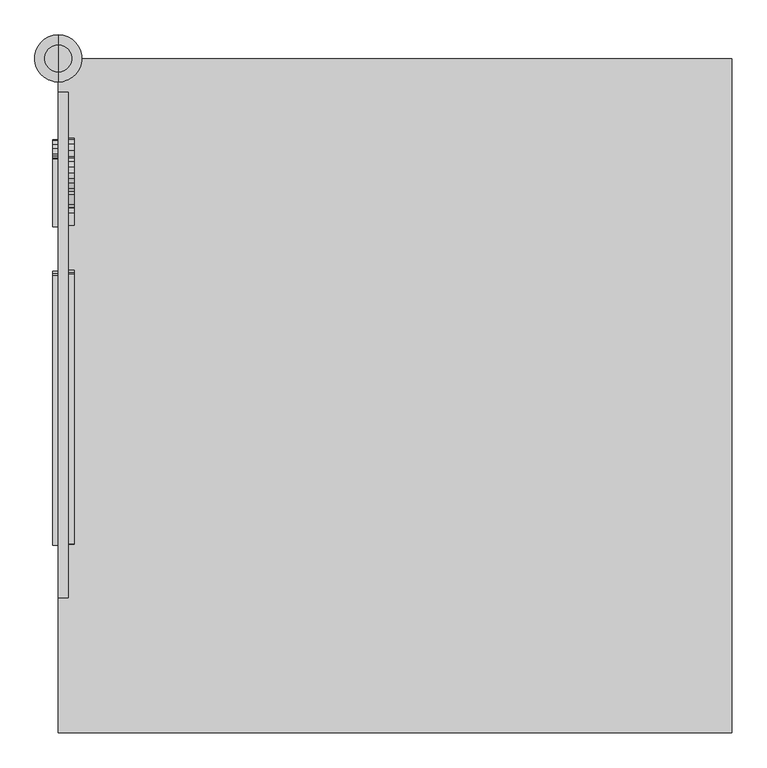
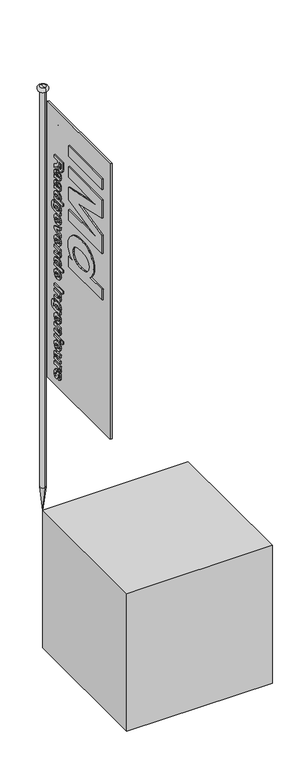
"""IFC4 building model written with IfcOpenShell, lengths in millimetres: geographic element geometry, 90_Site_Nulpunt kubus IMd (terrein) : 90_Kubus 1x1x1m."""

from ifc_helpers import new_model, si_unit, point, frame, origin, place, context, project, spatial, polyline, circle_curve, ellipse_curve, trimmed, outline, extrude, source, transform, mapped, element, save
from ifc_brep_helpers import plane_surface, cylinder_surface, revolved_surface, advanced_brep


def geographic_element_c72ebb9d(model_context):
    return source(origin(), model_context, "Body", "SolidModel", [
        extrude(outline(polyline([(1000.0, 0.0), (1000.0, -1000.0), (0.0, -1000.0), (0.0, 0.0), (1000.0, 0.0)])), frame((0.0, 0.0, -1000.0), z_axis=(0.0, 0.0, 1.0), x_axis=(1.0, 0.0, 0.0)), (0.0, 0.0, 1.0), 1000.0),
        extrude(outline(polyline([(-149.3092384, 2674.4331623), (-149.3092384, 2655.3855432), (-190.5790797, 2655.3855432), (-190.5790797, 2651.0204639), (-189.537413, 2640.1449678), (-185.7055677, 2633.646952), (-172.1515003, 2622.2754242), (-149.3092384, 2607.7912972), (-149.3092384, 2585.5442734), (-168.7040797, 2597.7714559), (-184.849913, 2608.3865353), (-193.1832463, 2618.381575), (-196.4570558, 2607.5029788), (-202.45904, 2599.7183805), (-210.8109745, 2595.0401811), (-221.1346352, 2593.4807813), (-236.9828495, 2597.7962575), (-246.6058654, 2609.304194), (-249.3092384, 2632.3696702), (-249.3092384, 2674.4331623), (-149.3092384, 2674.4331623)]), holes=[polyline([(-208.0393971, 2655.3855432), (-231.8489209, 2655.3855432), (-231.8489209, 2638.8180829), (-231.5265003, 2623.3418925), (-227.8434646, 2615.3557813), (-220.1921749, 2612.5284004), (-213.1609249, 2614.6737377), (-209.1926709, 2620.6261186), (-208.0393971, 2639.6861385), (-208.0393971, 2655.3855432)])]), frame((-8.5, 0.0, 0.0), z_axis=(1.0, 0.0, 0.0), x_axis=(0.0, 1.0, 0.0)), (0.0, 0.0, 1.0), 8.5),
        extrude(outline(polyline([(-200.1028892, 2558.5601464), (-207.5185638, 2554.5422893), (-209.6266987, 2547.6226464), (-207.1713416, 2538.7064758), (-198.9372146, 2536.3379242), (-196.928286, 2536.3379242), (-192.1911828, 2554.0710591), (-187.7020955, 2568.5799877), (-180.2864209, 2576.4048885), (-169.2745162, 2579.1950671), (-160.7520707, 2577.6294669), (-153.8355281, 2572.9326663), (-149.2503346, 2565.5200919), (-147.7219368, 2555.8071702), (-150.2392979, 2544.224829), (-157.7665797, 2534.0313766), (-155.3608257, 2533.3617337), (-149.3092384, 2531.5760194), (-149.3092384, 2512.5284004), (-159.1058654, 2516.2858409), (-173.2923733, 2517.2903051), (-195.8122146, 2517.2903051), (-213.0865201, 2519.7208607), (-220.849417, 2528.1037972), (-223.912413, 2546.2337575), (-222.647532, 2557.9804093), (-218.8528892, 2566.4346504), (-203.2774924, 2576.0204639), (-200.1028892, 2558.5601464)]), holes=[polyline([(-182.6425717, 2536.3379242), (-179.1951511, 2536.3379242), (-170.787413, 2537.0323686), (-165.0830479, 2541.2486385), (-162.0076511, 2550.350821), (-164.6490201, 2557.382071), (-170.9114209, 2560.147448), (-176.9878098, 2556.7000274), (-180.0012027, 2547.0770115), (-182.6425717, 2536.3379242)])]), frame((-8.5, 0.0, 0.0), z_axis=(1.0, 0.0, 0.0), x_axis=(0.0, 1.0, 0.0)), (0.0, 0.0, 1.0), 8.5),
        extrude(outline(polyline([(-200.1028892, 2482.3696702), (-207.5185638, 2478.3518131), (-209.6266987, 2471.4321702), (-207.1713416, 2462.5159996), (-198.9372146, 2460.147448), (-196.928286, 2460.147448), (-192.1911828, 2477.8805829), (-187.7020955, 2492.3895115), (-180.2864209, 2500.2144123), (-169.2745162, 2503.0045909), (-160.7520707, 2501.4389907), (-153.8355281, 2496.7421901), (-149.2503346, 2489.3296157), (-147.7219368, 2479.616694), (-150.2392979, 2468.0343528), (-157.7665797, 2457.8409004), (-155.3608257, 2457.1712575), (-149.3092384, 2455.3855432), (-149.3092384, 2436.3379242), (-159.1058654, 2440.0953647), (-173.2923733, 2441.099829), (-195.8122146, 2441.099829), (-213.0865201, 2443.5303845), (-220.849417, 2451.913321), (-223.912413, 2470.0432813), (-222.647532, 2481.7899331), (-218.8528892, 2490.2441742), (-203.2774924, 2499.8299877), (-200.1028892, 2482.3696702)]), holes=[polyline([(-182.6425717, 2460.147448), (-179.1951511, 2460.147448), (-170.787413, 2460.8418925), (-165.0830479, 2465.0581623), (-162.0076511, 2474.1603448), (-164.6490201, 2481.1915948), (-170.9114209, 2483.9569718), (-176.9878098, 2480.5095512), (-180.0012027, 2470.8865353), (-182.6425717, 2460.147448)])]), frame((-8.5, 0.0, 0.0), z_axis=(1.0, 0.0, 0.0), x_axis=(0.0, 1.0, 0.0)), (0.0, 0.0, 1.0), 8.5),
        extrude(outline(polyline([(-149.3092384, 2356.9728448), (-249.3092384, 2356.9728448), (-249.3092384, 2376.0204639), (-213.9173733, 2376.0204639), (-221.4136531, 2385.5566742), (-223.912413, 2396.7049877), (-221.5004586, 2408.6221504), (-214.2645955, 2418.2823686), (-202.397036, 2424.6811782), (-186.0899924, 2426.8141147), (-169.9627602, 2424.678078), (-157.8409844, 2418.2699678), (-150.2516987, 2408.8670661), (-147.7219368, 2397.7466544), (-150.7105281, 2386.0775075), (-159.8251114, 2376.0204639), (-149.3092384, 2376.0204639), (-149.3092384, 2356.9728448)]), holes=[polyline([(-187.2060638, 2407.7664956), (-203.9967384, 2403.2030036), (-209.6266987, 2391.8934798), (-203.9347344, 2380.4723488), (-185.2963416, 2376.0204639), (-167.8484249, 2380.6087575), (-162.0076511, 2391.7694718), (-163.9545757, 2399.0921405), (-169.7953495, 2404.5918925), (-187.2060638, 2407.7664956)])]), frame((-8.5, 0.0, 0.0), z_axis=(1.0, 0.0, 0.0), x_axis=(0.0, 1.0, 0.0)), (0.0, 0.0, 1.0), 8.5),
        extrude(outline(polyline([(-144.5473336, 2339.5125274), (-142.3151908, 2339.5869321), (-133.7586431, 2337.7020115), (-126.8390003, 2332.0472496), (-122.2631074, 2321.8847992), (-120.7378098, 2306.4768131), (-122.7839408, 2290.6906028), (-128.4263019, 2280.7203647), (-138.3593376, 2274.9167932), (-157.4689606, 2272.8458607), (-222.3251114, 2272.8458607), (-222.3251114, 2291.8934798), (-212.4292781, 2291.8934798), (-221.0416293, 2301.4172893), (-223.912413, 2313.2228448), (-221.491158, 2324.7648835), (-214.2273931, 2334.2421901), (-202.3753346, 2340.5758954), (-186.1891987, 2342.6871305), (-172.7591392, 2341.0750274), (-161.7348336, 2336.2387178), (-152.4156372, 2326.5598984), (-149.3092384, 2313.9420909), (-152.4032364, 2302.1179341), (-161.6852304, 2291.8934798), (-151.0453495, 2291.8934798), (-142.1663812, 2292.7367337), (-137.2804685, 2296.3081623), (-135.0235241, 2306.8736385), (-136.8092384, 2314.9341544), (-141.3727304, 2317.2903051), (-144.5473336, 2339.5125274)]), holes=[polyline([(-186.9084447, 2323.6395115), (-204.02154, 2319.2372298), (-209.6266987, 2308.0393131), (-203.9099328, 2296.4693726), (-186.3876114, 2291.8934798), (-169.3489209, 2296.6677853), (-163.5949527, 2308.3617337), (-169.2001114, 2319.2372298), (-186.9084447, 2323.6395115)])]), frame((-8.5, 0.0, 0.0), z_axis=(1.0, 0.0, 0.0), x_axis=(0.0, 1.0, 0.0)), (0.0, 0.0, 1.0), 8.5),
        extrude(outline(polyline([(-171.5314606, 2212.5284004), (-164.2645955, 2217.0174877), (-162.0076511, 2224.3339559), (-167.0175717, 2235.0234401), (-181.0552701, 2239.5125274), (-181.0552701, 2191.8934798), (-200.022284, 2193.8962079), (-213.3717384, 2200.6980432), (-221.2772443, 2211.5797397), (-223.912413, 2225.8220512), (-221.3454487, 2238.7808805), (-213.6445558, 2249.2843528), (-201.4173733, 2256.241198), (-185.27154, 2258.5601464), (-171.4012523, 2256.8116345), (-160.147532, 2251.5660988), (-150.8283356, 2240.3123786), (-147.7219368, 2224.2595512), (-152.9922741, 2204.8399083), (-168.3568574, 2193.4807813), (-171.5314606, 2212.5284004)]), holes=[polyline([(-192.1663812, 2210.9410988), (-192.1663812, 2239.1901067), (-204.9391987, 2235.2218528), (-209.6266987, 2225.0035988), (-205.1748138, 2215.1821702), (-192.1663812, 2210.9410988)])]), frame((-8.5, 0.0, 0.0), z_axis=(1.0, 0.0, 0.0), x_axis=(0.0, 1.0, 0.0)), (0.0, 0.0, 1.0), 8.5),
        extrude(outline(polyline([(-149.3092384, 2158.0145115), (-149.3092384, 2141.2486385), (-222.3251114, 2113.3220512), (-222.3251114, 2132.3696702), (-185.0731273, 2145.8865353), (-178.8727304, 2147.8954639), (-172.6227304, 2149.8299877), (-185.0731273, 2153.7486385), (-222.3251114, 2167.2903051), (-222.3251114, 2186.3379242), (-149.3092384, 2158.0145115)])), frame((-8.5, 0.0, 0.0), z_axis=(1.0, 0.0, 0.0), x_axis=(0.0, 1.0, 0.0)), (0.0, 0.0, 1.0), 8.5),
        extrude(outline(polyline([(-171.5314606, 2060.147448), (-164.2645955, 2064.6365353), (-162.0076511, 2071.9530036), (-167.0175717, 2082.6424877), (-181.0552701, 2087.131575), (-181.0552701, 2039.5125274), (-200.022284, 2041.5152555), (-213.3717384, 2048.3170909), (-221.2772443, 2059.1987873), (-223.912413, 2073.4410988), (-221.3454487, 2086.3999282), (-213.6445558, 2096.9034004), (-201.4173733, 2103.8602456), (-185.27154, 2106.179194), (-171.4012523, 2104.4306821), (-160.147532, 2099.1851464), (-150.8283356, 2087.9314262), (-147.7219368, 2071.8785988), (-152.9922741, 2052.4589559), (-168.3568574, 2041.099829), (-171.5314606, 2060.147448)]), holes=[polyline([(-192.1663812, 2058.5601464), (-192.1663812, 2086.8091544), (-204.9391987, 2082.8409004), (-209.6266987, 2072.6226464), (-205.1748138, 2062.8012178), (-192.1663812, 2058.5601464)])]), frame((-8.5, 0.0, 0.0), z_axis=(1.0, 0.0, 0.0), x_axis=(0.0, 1.0, 0.0)), (0.0, 0.0, 1.0), 8.5),
        extrude(outline(polyline([(-149.3092384, 1960.147448), (-194.64654, 1960.147448), (-207.6301709, 1961.1519123), (-215.7278892, 1964.7357417), (-221.6058654, 1972.3250274), (-223.912413, 1983.3865353), (-220.8866193, 1995.9547397), (-211.8092384, 2006.179194), (-222.3251114, 2006.179194), (-222.3251114, 2025.2268131), (-149.3092384, 2025.2268131), (-149.3092384, 2006.179194), (-182.6177701, 2006.179194), (-199.5200519, 2004.7531028), (-206.8613217, 1999.4703647), (-209.6266987, 1990.7526067), (-207.6921749, 1984.2793925), (-202.2606273, 1980.3855432), (-186.83404, 1979.1950671), (-149.3092384, 1979.1950671), (-149.3092384, 1960.147448)])), frame((-8.5, 0.0, 0.0), z_axis=(1.0, 0.0, 0.0), x_axis=(0.0, 1.0, 0.0)), (0.0, 0.0, 1.0), 8.5),
        extrude(outline(polyline([(-149.3092384, 1876.0204639), (-249.3092384, 1876.0204639), (-249.3092384, 1895.0680829), (-213.9173733, 1895.0680829), (-221.4136531, 1904.6042932), (-223.912413, 1915.7526067), (-221.5004586, 1927.6697694), (-214.2645955, 1937.3299877), (-202.397036, 1943.7287972), (-186.0899924, 1945.8617337), (-169.9627602, 1943.725697), (-157.8409844, 1937.3175869), (-150.2516987, 1927.9146851), (-147.7219368, 1916.7942734), (-150.7105281, 1905.1251266), (-159.8251114, 1895.0680829), (-149.3092384, 1895.0680829), (-149.3092384, 1876.0204639)]), holes=[polyline([(-187.2060638, 1926.8141147), (-203.9967384, 1922.2506226), (-209.6266987, 1910.9410988), (-203.9347344, 1899.5199678), (-185.2963416, 1895.0680829), (-167.8484249, 1899.6563766), (-162.0076511, 1910.8170909), (-163.9545757, 1918.1397595), (-169.7953495, 1923.6395115), (-187.2060638, 1926.8141147)])]), frame((-8.5, 0.0, 0.0), z_axis=(1.0, 0.0, 0.0), x_axis=(0.0, 1.0, 0.0)), (0.0, 0.0, 1.0), 8.5),
        extrude(outline(polyline([(-171.5314606, 1815.7030036), (-164.2645955, 1820.1920909), (-162.0076511, 1827.5085591), (-167.0175717, 1838.1980432), (-181.0552701, 1842.6871305), (-181.0552701, 1795.0680829), (-200.022284, 1797.0708111), (-213.3717384, 1803.8726464), (-221.2772443, 1814.7543428), (-223.912413, 1828.9966544), (-221.3454487, 1841.9554837), (-213.6445558, 1852.4589559), (-201.4173733, 1859.4158012), (-185.27154, 1861.7347496), (-171.4012523, 1859.9862377), (-160.147532, 1854.740702), (-150.8283356, 1843.4869817), (-147.7219368, 1827.4341544), (-152.9922741, 1808.0145115), (-168.3568574, 1796.6553845), (-171.5314606, 1815.7030036)]), holes=[polyline([(-192.1663812, 1814.115702), (-192.1663812, 1842.3647099), (-204.9391987, 1838.3964559), (-209.6266987, 1828.178202), (-205.1748138, 1818.3567734), (-192.1663812, 1814.115702)])]), frame((-8.5, 0.0, 0.0), z_axis=(1.0, 0.0, 0.0), x_axis=(0.0, 1.0, 0.0)), (0.0, 0.0, 1.0), 8.5),
        extrude(outline(polyline([(-8.5, -249.3092384), (-8.5, -149.3092384), (0.0, -149.3092384), (0.0, -249.3092384), (-8.5, -249.3092384)])), frame((0.0, 0.0, 1723.6395115), z_axis=(0.0, 0.0, 1.0), x_axis=(1.0, 0.0, 0.0)), (0.0, 0.0, 1.0), 19.047619),
        extrude(outline(polyline([(-149.3092384, 1639.5125274), (-194.64654, 1639.5125274), (-207.6301709, 1640.5169917), (-215.7278892, 1644.100821), (-221.6058654, 1651.6901067), (-223.912413, 1662.7516147), (-220.8866193, 1675.319819), (-211.8092384, 1685.5442734), (-222.3251114, 1685.5442734), (-222.3251114, 1704.5918925), (-149.3092384, 1704.5918925), (-149.3092384, 1685.5442734), (-182.6177701, 1685.5442734), (-199.5200519, 1684.1181821), (-206.8613217, 1678.835444), (-209.6266987, 1670.1176861), (-207.6921749, 1663.6444718), (-202.2606273, 1659.7506226), (-186.83404, 1658.5601464), (-149.3092384, 1658.5601464), (-149.3092384, 1639.5125274)])), frame((-8.5, 0.0, 0.0), z_axis=(1.0, 0.0, 0.0), x_axis=(0.0, 1.0, 0.0)), (0.0, 0.0, 1.0), 8.5),
        extrude(outline(polyline([(-144.5473336, 1622.0522099), (-142.3151908, 1622.1266147), (-133.7586431, 1620.241694), (-126.8390003, 1614.5869321), (-122.2631074, 1604.4244817), (-120.7378098, 1589.0164956), (-122.7839408, 1573.2302853), (-128.4263019, 1563.2600472), (-138.3593376, 1557.4564758), (-157.4689606, 1555.3855432), (-222.3251114, 1555.3855432), (-222.3251114, 1574.4331623), (-212.4292781, 1574.4331623), (-221.0416293, 1583.9569718), (-223.912413, 1595.7625274), (-221.491158, 1607.3045661), (-214.2273931, 1616.7818726), (-202.3753346, 1623.115578), (-186.1891987, 1625.2268131), (-172.7591392, 1623.6147099), (-161.7348336, 1618.7784004), (-152.4156372, 1609.0995809), (-149.3092384, 1596.4817734), (-152.4032364, 1584.6576167), (-161.6852304, 1574.4331623), (-151.0453495, 1574.4331623), (-142.1663812, 1575.2764163), (-137.2804685, 1578.8478448), (-135.0235241, 1589.413321), (-136.8092384, 1597.4738369), (-141.3727304, 1599.8299877), (-144.5473336, 1622.0522099)]), holes=[polyline([(-186.9084447, 1606.179194), (-204.02154, 1601.7769123), (-209.6266987, 1590.5789956), (-203.9099328, 1579.0090551), (-186.3876114, 1574.4331623), (-169.3489209, 1579.2074678), (-163.5949527, 1590.9014163), (-169.2001114, 1601.7769123), (-186.9084447, 1606.179194)])]), frame((-8.5, 0.0, 0.0), z_axis=(1.0, 0.0, 0.0), x_axis=(0.0, 1.0, 0.0)), (0.0, 0.0, 1.0), 8.5),
        extrude(outline(polyline([(-171.5314606, 1495.0680829), (-164.2645955, 1499.5571702), (-162.0076511, 1506.8736385), (-167.0175717, 1517.5631226), (-181.0552701, 1522.0522099), (-181.0552701, 1474.4331623), (-200.022284, 1476.4358905), (-213.3717384, 1483.2377258), (-221.2772443, 1494.1194222), (-223.912413, 1508.3617337), (-221.3454487, 1521.3205631), (-213.6445558, 1531.8240353), (-201.4173733, 1538.7808805), (-185.27154, 1541.099829), (-171.4012523, 1539.3513171), (-160.147532, 1534.1057813), (-150.8283356, 1522.8520611), (-147.7219368, 1506.7992337), (-152.9922741, 1487.3795909), (-168.3568574, 1476.0204639), (-171.5314606, 1495.0680829)]), holes=[polyline([(-192.1663812, 1493.4807813), (-192.1663812, 1521.7297893), (-204.9391987, 1517.7615353), (-209.6266987, 1507.5432813), (-205.1748138, 1497.7218528), (-192.1663812, 1493.4807813)])]), frame((-8.5, 0.0, 0.0), z_axis=(1.0, 0.0, 0.0), x_axis=(0.0, 1.0, 0.0)), (0.0, 0.0, 1.0), 8.5),
        extrude(outline(polyline([(-149.3092384, 1395.0680829), (-194.64654, 1395.0680829), (-207.6301709, 1396.0725472), (-215.7278892, 1399.6563766), (-221.6058654, 1407.2456623), (-223.912413, 1418.3071702), (-220.8866193, 1430.8753746), (-211.8092384, 1441.099829), (-222.3251114, 1441.099829), (-222.3251114, 1460.147448), (-149.3092384, 1460.147448), (-149.3092384, 1441.099829), (-182.6177701, 1441.099829), (-199.5200519, 1439.6737377), (-206.8613217, 1434.3909996), (-209.6266987, 1425.6732417), (-207.6921749, 1419.2000274), (-202.2606273, 1415.3061782), (-186.83404, 1414.115702), (-149.3092384, 1414.115702), (-149.3092384, 1395.0680829)])), frame((-8.5, 0.0, 0.0), z_axis=(1.0, 0.0, 0.0), x_axis=(0.0, 1.0, 0.0)), (0.0, 0.0, 1.0), 8.5),
        extrude(outline(polyline([(-8.5, -249.3092384), (-8.5, -231.8489209), (0.0, -231.8489209), (0.0, -249.3092384), (-8.5, -249.3092384)])), frame((0.0, 0.0, 1356.9728448), z_axis=(0.0, 0.0, 1.0), x_axis=(1.0, 0.0, 0.0)), (0.0, 0.0, 1.0), 19.047619),
        extrude(outline(polyline([(-8.5, -222.3251114), (-8.5, -149.3092384), (0.0, -149.3092384), (0.0, -222.3251114), (-8.5, -222.3251114)])), frame((0.0, 0.0, 1356.9728448), z_axis=(0.0, 0.0, 1.0), x_axis=(1.0, 0.0, 0.0)), (0.0, 0.0, 1.0), 19.047619),
        extrude(outline(polyline([(-171.5314606, 1296.6553845), (-164.2645955, 1301.1444718), (-162.0076511, 1308.4609401), (-167.0175717, 1319.1504242), (-181.0552701, 1323.6395115), (-181.0552701, 1276.0204639), (-200.022284, 1278.0231921), (-213.3717384, 1284.8250274), (-221.2772443, 1295.7067238), (-223.912413, 1309.9490353), (-221.3454487, 1322.9078647), (-213.6445558, 1333.4113369), (-201.4173733, 1340.3681821), (-185.27154, 1342.6871305), (-171.4012523, 1340.9386186), (-160.147532, 1335.6930829), (-150.8283356, 1324.4393627), (-147.7219368, 1308.3865353), (-152.9922741, 1288.9668925), (-168.3568574, 1277.6077655), (-171.5314606, 1296.6553845)]), holes=[polyline([(-192.1663812, 1295.0680829), (-192.1663812, 1323.3170909), (-204.9391987, 1319.3488369), (-209.6266987, 1309.1305829), (-205.1748138, 1299.3091544), (-192.1663812, 1295.0680829)])]), frame((-8.5, 0.0, 0.0), z_axis=(1.0, 0.0, 0.0), x_axis=(0.0, 1.0, 0.0)), (0.0, 0.0, 1.0), 8.5),
        extrude(outline(polyline([(-149.3092384, 1215.7030036), (-149.3092384, 1196.6553845), (-222.3251114, 1196.6553845), (-222.3251114, 1215.7030036), (-191.3479289, 1215.7030036), (-171.5190598, 1217.1042932), (-164.7358257, 1222.3126266), (-162.0076511, 1230.9311782), (-164.053782, 1237.8880234), (-169.584536, 1241.6578647), (-188.5701511, 1242.6871305), (-222.3251114, 1242.6871305), (-222.3251114, 1261.7347496), (-176.1693574, 1261.7347496), (-160.0111233, 1259.2545909), (-150.9461431, 1251.2188766), (-147.7219368, 1238.694075), (-151.0081471, 1225.6608409), (-160.0235241, 1215.7030036), (-149.3092384, 1215.7030036)])), frame((-8.5, 0.0, 0.0), z_axis=(1.0, 0.0, 0.0), x_axis=(0.0, 1.0, 0.0)), (0.0, 0.0, 1.0), 8.5),
        extrude(outline(polyline([(-149.3092384, 1158.5601464), (-171.1594368, 1158.5601464), (-194.8697543, 1156.9852456), (-202.6946551, 1152.6697694), (-204.8647939, 1145.9609401), (-201.7645955, 1137.131575), (-219.8945558, 1131.5760194), (-223.912413, 1143.2575671), (-221.6430677, 1150.9460591), (-212.1564606, 1158.5601464), (-222.3251114, 1158.5601464), (-222.3251114, 1177.6077655), (-149.3092384, 1177.6077655), (-149.3092384, 1158.5601464)])), frame((-8.5, 0.0, 0.0), z_axis=(1.0, 0.0, 0.0), x_axis=(0.0, 1.0, 0.0)), (0.0, 0.0, 1.0), 8.5),
        extrude(outline(polyline([(-169.944159, 1131.5760194), (-160.7489705, 1127.4806573), (-153.6991193, 1120.4525075), (-149.2162324, 1110.4357665), (-147.7219368, 1097.3746305), (-149.5169517, 1083.271828), (-154.9019963, 1073.1062774), (-162.7858009, 1066.9585839), (-172.0770955, 1064.9093528), (-180.2430181, 1066.3230432), (-186.3876114, 1070.5641147), (-194.8945558, 1090.6906028), (-200.2268971, 1107.5432813), (-203.6743177, 1109.3537972), (-207.5433654, 1107.5432813), (-209.6266987, 1098.490702), (-207.1713416, 1090.8022099), (-200.1028892, 1087.131575), (-203.2774924, 1068.0839559), (-218.7040797, 1077.6821702), (-222.6103297, 1086.4929341), (-223.912413, 1098.9867337), (-222.3003098, 1112.0881722), (-217.4640003, 1121.2337575), (-210.2653396, 1126.6095016), (-201.5661828, 1128.4014163), (-192.2221848, 1126.3118825), (-185.1723336, 1120.0432813), (-175.8469368, 1091.4966544), (-173.3419765, 1085.2714559), (-169.7705479, 1083.9569718), (-164.7110241, 1086.4371305), (-162.0076511, 1097.3746305), (-164.835032, 1107.6548885), (-173.1187622, 1112.5284004), (-169.944159, 1131.5760194)])), frame((-8.5, 0.0, 0.0), z_axis=(1.0, 0.0, 0.0), x_axis=(0.0, 1.0, 0.0)), (0.0, 0.0, 1.0), 8.5),
        extrude(outline(polyline([(-8.5, -722.1223548), (-8.5, -322.1223548), (0.0, -322.1223548), (0.0, -722.1223548), (-8.5, -722.1223548)])), frame((0.0, 0.0, 2767.7553367), z_axis=(0.0, 0.0, 1.0), x_axis=(1.0, 0.0, 0.0)), (0.0, 0.0, 1.0), 76.1904762),
        extrude(outline(polyline([(-322.1223548, 2691.5648605), (-322.1223548, 2615.3743843), (-637.0033072, 2612.1997812), (-322.1223548, 2542.4577177), (-322.1223548, 2453.2712097), (-637.0033072, 2383.6283526), (-322.1223548, 2380.4537494), (-322.1223548, 2304.2632732), (-722.1223548, 2304.2632732), (-722.1223548, 2434.8188288), (-449.3048945, 2497.9140669), (-722.1223548, 2561.009305), (-722.1223548, 2691.5648605), (-322.1223548, 2691.5648605)])), frame((-8.5, 0.0, 0.0), z_axis=(1.0, 0.0, 0.0), x_axis=(0.0, 1.0, 0.0)), (0.0, 0.0, 1.0), 8.5),
        extrude(outline(polyline([(-322.1223548, 1967.7553367), (-722.1223548, 1967.7553367), (-722.1223548, 2043.9458129), (-580.5548945, 2043.9458129), (-598.0462139, 2062.212182), (-610.5400135, 2082.0906542), (-618.0362933, 2103.5812296), (-620.5350532, 2126.6839081), (-618.1230988, 2151.6467058), (-610.8872357, 2174.3525589), (-598.8274639, 2194.8014677), (-581.9437834, 2212.993432), (-560.4284064, 2227.9239875), (-534.4735453, 2238.58867), (-504.0792, 2244.9874796), (-469.2453707, 2247.1204161), (-434.9881782, 2244.9843794), (-404.7364421, 2238.5762693), (-378.4901623, 2227.8960857), (-356.2493389, 2212.9438288), (-338.5410056, 2194.9967802), (-325.8921961, 2175.3322216), (-318.3029103, 2153.9501532), (-315.7731484, 2130.8505748), (-318.7617397, 2107.4254756), (-327.7275135, 2084.1739875), (-342.8192794, 2062.5346026), (-364.1858469, 2043.9458129), (-322.1223548, 2043.9458129), (-322.1223548, 1967.7553367)]), holes=[polyline([(-473.7096564, 2170.9299399), (-512.8217595, 2166.3664478), (-528.2297457, 2160.6620827), (-540.8723548, 2152.6759716), (-557.7622357, 2132.2394637), (-563.3921961, 2107.4378764), (-557.7002318, 2082.0782534), (-540.6243389, 2061.7533526), (-527.4267943, 2053.962554), (-510.6020175, 2048.3976978), (-466.0707675, 2043.9458129), (-425.4085651, 2048.5341066), (-409.4022407, 2054.2694736), (-396.2791008, 2062.2989875), (-378.7567794, 2082.6362891), (-372.9160056, 2106.9418446), (-374.8629302, 2122.4986403), (-380.703704, 2136.2325193), (-390.438327, 2148.1434816), (-404.0667992, 2158.2315272), (-432.2414024, 2167.7553367), (-473.7096564, 2170.9299399)])]), frame((-8.5, 0.0, 0.0), z_axis=(1.0, 0.0, 0.0), x_axis=(0.0, 1.0, 0.0)), (0.0, 0.0, 1.0), 8.5),
        extrude(outline(polyline([(-147.0915312, 1281.7463407), (-247.0915312, 1281.7463407), (-247.0915312, 1323.8098327), (-244.3881581, 1346.8753089), (-234.7651423, 1358.3832454), (-218.916928, 1362.6987216), (-208.5932673, 1361.1393218), (-200.2413327, 1356.4611224), (-194.2393486, 1348.6765242), (-190.9655391, 1337.797928), (-182.6322058, 1347.7929676), (-166.4863724, 1358.408047), (-147.0915312, 1370.6352296), (-147.0915312, 1348.3882057), (-169.9337931, 1333.9040788), (-183.4878605, 1322.532551), (-187.3197058, 1316.0345351), (-188.3613724, 1305.1590391), (-188.3613724, 1300.7939597), (-147.0915312, 1300.7939597), (-147.0915312, 1281.7463407)]), holes=[polyline([(-205.8216899, 1300.7939597), (-205.8216899, 1316.4933645), (-206.9749637, 1335.5533843), (-210.9432177, 1341.5057653), (-217.9744677, 1343.6511026), (-225.6257574, 1340.8237216), (-229.3087931, 1332.8376105), (-229.6312137, 1317.36142), (-229.6312137, 1300.7939597), (-205.8216899, 1300.7939597)])]), frame((15.0, 0.0, 0.0), z_axis=(1.0, 0.0, 0.0), x_axis=(0.0, 1.0, 0.0)), (0.0, 0.0, 1.0), 8.5),
        extrude(outline(polyline([(-197.885182, 1397.6193565), (-201.0597851, 1380.1590391), (-216.635182, 1389.7448526), (-220.4298248, 1398.1990936), (-221.6947058, 1409.9457454), (-218.6317097, 1428.0757057), (-210.8688129, 1436.4586423), (-193.5945074, 1438.8891978), (-171.0746661, 1438.8891978), (-156.8881581, 1439.8936621), (-147.0915312, 1443.6511026), (-147.0915312, 1424.6034835), (-153.1431185, 1422.8177692), (-155.5488724, 1422.1481264), (-148.0215907, 1411.954674), (-145.5042296, 1400.3723327), (-147.0326274, 1390.6594111), (-151.6178208, 1383.2468367), (-158.5343635, 1378.5500361), (-167.0568089, 1376.9844359), (-178.0687137, 1379.7746145), (-185.4843883, 1387.5995153), (-189.9734756, 1402.1084438), (-194.7105788, 1419.8415788), (-196.7195074, 1419.8415788), (-204.9536343, 1417.4730272), (-207.4089915, 1408.5568565), (-205.3008566, 1401.6372137), (-197.885182, 1397.6193565)]), holes=[polyline([(-180.4248645, 1419.8415788), (-177.7834954, 1409.1024915), (-174.7701026, 1399.4794756), (-168.6937137, 1396.0320549), (-162.4313129, 1398.7974319), (-159.7899439, 1405.8286819), (-162.8653407, 1414.9308645), (-168.5697058, 1419.1471343), (-176.9774439, 1419.8415788), (-180.4248645, 1419.8415788)])]), frame((15.0, 0.0, 0.0), z_axis=(1.0, 0.0, 0.0), x_axis=(0.0, 1.0, 0.0)), (0.0, 0.0, 1.0), 8.5),
        extrude(outline(polyline([(-197.885182, 1473.8098327), (-201.0597851, 1456.3495153), (-216.635182, 1465.9353288), (-220.4298248, 1474.3895698), (-221.6947058, 1486.1362216), (-218.6317097, 1504.2661819), (-210.8688129, 1512.6491184), (-193.5945074, 1515.079674), (-171.0746661, 1515.079674), (-156.8881581, 1516.0841383), (-147.0915312, 1519.8415788), (-147.0915312, 1500.7939597), (-153.1431185, 1499.0082454), (-155.5488724, 1498.3386026), (-148.0215907, 1488.1451502), (-145.5042296, 1476.5628089), (-147.0326274, 1466.8498873), (-151.6178208, 1459.4373129), (-158.5343635, 1454.7405123), (-167.0568089, 1453.1749121), (-178.0687137, 1455.9650907), (-185.4843883, 1463.7899915), (-189.9734756, 1478.29892), (-194.7105788, 1496.0320549), (-196.7195074, 1496.0320549), (-204.9536343, 1493.6635034), (-207.4089915, 1484.7473327), (-205.3008566, 1477.8276899), (-197.885182, 1473.8098327)]), holes=[polyline([(-180.4248645, 1496.0320549), (-177.7834954, 1485.2929676), (-174.7701026, 1475.6699518), (-168.6937137, 1472.2225311), (-162.4313129, 1474.9879081), (-159.7899439, 1482.0191581), (-162.8653407, 1491.1213407), (-168.5697058, 1495.3376105), (-176.9774439, 1496.0320549), (-180.4248645, 1496.0320549)])]), frame((15.0, 0.0, 0.0), z_axis=(1.0, 0.0, 0.0), x_axis=(0.0, 1.0, 0.0)), (0.0, 0.0, 1.0), 8.5),
        extrude(outline(polyline([(-147.0915312, 1599.2066581), (-147.0915312, 1580.1590391), (-157.6074042, 1580.1590391), (-148.4928208, 1570.1019954), (-145.5042296, 1558.4328486), (-148.0339915, 1547.3124369), (-155.6232772, 1537.9095351), (-167.745053, 1531.501425), (-183.8722851, 1529.3653883), (-200.1793288, 1531.4983248), (-212.0468883, 1537.8971343), (-219.2827514, 1547.5573526), (-221.6947058, 1559.4745153), (-219.1959458, 1570.6228288), (-211.6996661, 1580.1590391), (-247.0915312, 1580.1590391), (-247.0915312, 1599.2066581), (-147.0915312, 1599.2066581)]), holes=[polyline([(-184.9883566, 1548.4130073), (-167.5776423, 1551.5876105), (-161.7368685, 1557.0873625), (-159.7899439, 1564.4100311), (-165.6307177, 1575.5707454), (-183.0786343, 1580.1590391), (-201.7170272, 1575.7071542), (-207.4089915, 1564.2860232), (-201.7790312, 1552.9764994), (-184.9883566, 1548.4130073)])]), frame((15.0, 0.0, 0.0), z_axis=(1.0, 0.0, 0.0), x_axis=(0.0, 1.0, 0.0)), (0.0, 0.0, 1.0), 8.5),
        extrude(outline(polyline([(-142.3296264, 1616.6669756), (-139.1550232, 1638.8891978), (-134.5915312, 1641.2453486), (-132.8058169, 1649.3058645), (-135.0627613, 1659.8713407), (-139.948674, 1663.4427692), (-148.8276423, 1664.2860232), (-159.4675232, 1664.2860232), (-150.1855292, 1654.0615688), (-147.0915312, 1642.2374121), (-150.19793, 1629.6196046), (-159.5171264, 1619.9407851), (-170.541432, 1615.1044756), (-183.9714915, 1613.4923724), (-200.1576274, 1615.6036075), (-212.0096859, 1621.9373129), (-219.2734508, 1631.4146194), (-221.6947058, 1642.9566581), (-218.823922, 1654.7622137), (-210.2115708, 1664.2860232), (-220.1074042, 1664.2860232), (-220.1074042, 1683.3336423), (-155.2512534, 1683.3336423), (-136.1416304, 1681.2627097), (-126.2085947, 1675.4591383), (-120.5662335, 1665.4889002), (-118.5201026, 1649.7026899), (-120.0454002, 1634.2947038), (-124.6212931, 1624.1322534), (-131.5409359, 1618.4774915), (-140.0974835, 1616.5925708), (-142.3296264, 1616.6669756)]), holes=[polyline([(-184.6907375, 1632.5399915), (-166.9824042, 1636.9422732), (-161.3772454, 1647.8177692), (-167.1312137, 1659.5117176), (-184.1699042, 1664.2860232), (-201.6922256, 1659.7101303), (-207.4089915, 1648.1401899), (-201.8038327, 1636.9422732), (-184.6907375, 1632.5399915)])]), frame((15.0, 0.0, 0.0), z_axis=(1.0, 0.0, 0.0), x_axis=(0.0, 1.0, 0.0)), (0.0, 0.0, 1.0), 8.5),
        extrude(outline(polyline([(-169.3137534, 1743.6511026), (-166.1391502, 1762.6987216), (-150.7745669, 1751.3395946), (-145.5042296, 1731.9199518), (-148.6106284, 1715.8671244), (-157.9298248, 1704.6134042), (-169.1835451, 1699.3678684), (-183.0538327, 1697.6193565), (-199.1996661, 1699.9383049), (-211.4268486, 1706.8951502), (-219.1277415, 1717.3986224), (-221.6947058, 1730.3574518), (-219.0595371, 1744.5997633), (-211.1540312, 1755.4814597), (-197.8045768, 1762.283295), (-178.8375629, 1764.2860232), (-178.8375629, 1716.6669756), (-164.7998645, 1721.1560629), (-159.7899439, 1731.845547), (-162.0468883, 1739.1620153), (-169.3137534, 1743.6511026)]), holes=[polyline([(-189.948674, 1745.2384042), (-202.9571066, 1740.9973327), (-207.4089915, 1731.1759042), (-202.7214915, 1720.9576502), (-189.948674, 1716.9893962), (-189.948674, 1745.2384042)])]), frame((15.0, 0.0, 0.0), z_axis=(1.0, 0.0, 0.0), x_axis=(0.0, 1.0, 0.0)), (0.0, 0.0, 1.0), 8.5),
        extrude(outline(polyline([(-147.0915312, 1798.1649915), (-220.1074042, 1769.8415788), (-220.1074042, 1788.8891978), (-182.8554201, 1802.4308645), (-170.4050232, 1806.3495153), (-176.6550232, 1808.2840391), (-182.8554201, 1810.2929676), (-220.1074042, 1823.8098327), (-220.1074042, 1842.8574518), (-147.0915312, 1814.9308645), (-147.0915312, 1798.1649915)])), frame((15.0, 0.0, 0.0), z_axis=(1.0, 0.0, 0.0), x_axis=(0.0, 1.0, 0.0)), (0.0, 0.0, 1.0), 8.5),
        extrude(outline(polyline([(-169.3137534, 1896.0320549), (-166.1391502, 1915.079674), (-150.7745669, 1903.720547), (-145.5042296, 1884.3009042), (-148.6106284, 1868.2480768), (-157.9298248, 1856.9943565), (-169.1835451, 1851.7488208), (-183.0538327, 1850.0003089), (-199.1996661, 1852.3192573), (-211.4268486, 1859.2761026), (-219.1277415, 1869.7795748), (-221.6947058, 1882.7384042), (-219.0595371, 1896.9807157), (-211.1540312, 1907.8624121), (-197.8045768, 1914.6642474), (-178.8375629, 1916.6669756), (-178.8375629, 1869.047928), (-164.7998645, 1873.5370153), (-159.7899439, 1884.2264994), (-162.0468883, 1891.5429676), (-169.3137534, 1896.0320549)]), holes=[polyline([(-189.948674, 1897.6193565), (-202.9571066, 1893.3782851), (-207.4089915, 1883.5568565), (-202.7214915, 1873.3386026), (-189.948674, 1869.3703486), (-189.948674, 1897.6193565)])]), frame((15.0, 0.0, 0.0), z_axis=(1.0, 0.0, 0.0), x_axis=(0.0, 1.0, 0.0)), (0.0, 0.0, 1.0), 8.5),
        extrude(outline(polyline([(-147.0915312, 1996.0320549), (-147.0915312, 1976.9844359), (-184.6163327, 1976.9844359), (-200.0429201, 1975.7939597), (-205.4744677, 1971.9001105), (-207.4089915, 1965.4268962), (-204.6436145, 1956.7091383), (-197.3023447, 1951.4264002), (-180.4000629, 1950.0003089), (-147.0915312, 1950.0003089), (-147.0915312, 1930.9526899), (-220.1074042, 1930.9526899), (-220.1074042, 1950.0003089), (-209.5915312, 1950.0003089), (-218.6689121, 1960.2247633), (-221.6947058, 1972.7929676), (-219.3881581, 1983.8544756), (-213.510182, 1991.4437613), (-205.4124637, 1995.0275907), (-192.4288327, 1996.0320549), (-147.0915312, 1996.0320549)])), frame((15.0, 0.0, 0.0), z_axis=(1.0, 0.0, 0.0), x_axis=(0.0, 1.0, 0.0)), (0.0, 0.0, 1.0), 8.5),
        extrude(outline(polyline([(-147.0915312, 2080.1590391), (-147.0915312, 2061.11142), (-157.6074042, 2061.11142), (-148.4928208, 2051.0543764), (-145.5042296, 2039.3852296), (-148.0339915, 2028.2648178), (-155.6232772, 2018.8619161), (-167.745053, 2012.4538059), (-183.8722851, 2010.3177692), (-200.1793288, 2012.4507057), (-212.0468883, 2018.8495153), (-219.2827514, 2028.5097335), (-221.6947058, 2040.4268962), (-219.1959458, 2051.5752097), (-211.6996661, 2061.11142), (-247.0915312, 2061.11142), (-247.0915312, 2080.1590391), (-147.0915312, 2080.1590391)]), holes=[polyline([(-184.9883566, 2029.3653883), (-167.5776423, 2032.5399915), (-161.7368685, 2038.0397434), (-159.7899439, 2045.3624121), (-165.6307177, 2056.5231264), (-183.0786343, 2061.11142), (-201.7170272, 2056.6595351), (-207.4089915, 2045.2384042), (-201.7790312, 2033.9288803), (-184.9883566, 2029.3653883)])]), frame((15.0, 0.0, 0.0), z_axis=(1.0, 0.0, 0.0), x_axis=(0.0, 1.0, 0.0)), (0.0, 0.0, 1.0), 8.5),
        extrude(outline(polyline([(-169.3137534, 2140.4764994), (-166.1391502, 2159.5241184), (-150.7745669, 2148.1649915), (-145.5042296, 2128.7453486), (-148.6106284, 2112.6925212), (-157.9298248, 2101.438801), (-169.1835451, 2096.1932653), (-183.0538327, 2094.4447534), (-199.1996661, 2096.7637018), (-211.4268486, 2103.720547), (-219.1277415, 2114.2240192), (-221.6947058, 2127.1828486), (-219.0595371, 2141.4251601), (-211.1540312, 2152.3068565), (-197.8045768, 2159.1086919), (-178.8375629, 2161.11142), (-178.8375629, 2113.4923724), (-164.7998645, 2117.9814597), (-159.7899439, 2128.6709438), (-162.0468883, 2135.9874121), (-169.3137534, 2140.4764994)]), holes=[polyline([(-189.948674, 2142.063801), (-202.9571066, 2137.8227296), (-207.4089915, 2128.001301), (-202.7214915, 2117.783047), (-189.948674, 2113.814793), (-189.948674, 2142.063801)])]), frame((15.0, 0.0, 0.0), z_axis=(1.0, 0.0, 0.0), x_axis=(0.0, 1.0, 0.0)), (0.0, 0.0, 1.0), 8.5),
        extrude(outline(polyline([(23.5, -147.0915312), (23.5, -247.0915312), (15.0, -247.0915312), (15.0, -147.0915312), (23.5, -147.0915312)])), frame((0.0, 0.0, 2213.4923724), z_axis=(0.0, 0.0, 1.0), x_axis=(1.0, 0.0, 0.0)), (0.0, 0.0, 1.0), 19.047619),
        extrude(outline(polyline([(-147.0915312, 2316.6669756), (-147.0915312, 2297.6193565), (-184.6163327, 2297.6193565), (-200.0429201, 2296.4288803), (-205.4744677, 2292.5350311), (-207.4089915, 2286.0618169), (-204.6436145, 2277.3440589), (-197.3023447, 2272.0613208), (-180.4000629, 2270.6352296), (-147.0915312, 2270.6352296), (-147.0915312, 2251.5876105), (-220.1074042, 2251.5876105), (-220.1074042, 2270.6352296), (-209.5915312, 2270.6352296), (-218.6689121, 2280.8596839), (-221.6947058, 2293.4278883), (-219.3881581, 2304.4893962), (-213.510182, 2312.0786819), (-205.4124637, 2315.6625113), (-192.4288327, 2316.6669756), (-147.0915312, 2316.6669756)])), frame((15.0, 0.0, 0.0), z_axis=(1.0, 0.0, 0.0), x_axis=(0.0, 1.0, 0.0)), (0.0, 0.0, 1.0), 8.5),
        extrude(outline(polyline([(-142.3296264, 2334.127293), (-139.1550232, 2356.3495153), (-134.5915312, 2358.7056661), (-132.8058169, 2366.7661819), (-135.0627613, 2377.3316581), (-139.948674, 2380.9030867), (-148.8276423, 2381.7463407), (-159.4675232, 2381.7463407), (-150.1855292, 2371.5218863), (-147.0915312, 2359.6977296), (-150.19793, 2347.079922), (-159.5171264, 2337.4011026), (-170.541432, 2332.564793), (-183.9714915, 2330.9526899), (-200.1576274, 2333.063925), (-212.0096859, 2339.3976303), (-219.2734508, 2348.8749369), (-221.6947058, 2360.4169756), (-218.823922, 2372.2225311), (-210.2115708, 2381.7463407), (-220.1074042, 2381.7463407), (-220.1074042, 2400.7939597), (-155.2512534, 2400.7939597), (-136.1416304, 2398.7230272), (-126.2085947, 2392.9194557), (-120.5662335, 2382.9492176), (-118.5201026, 2367.1630073), (-120.0454002, 2351.7550212), (-124.6212931, 2341.5925708), (-131.5409359, 2335.9378089), (-140.0974835, 2334.0528883), (-142.3296264, 2334.127293)]), holes=[polyline([(-184.6907375, 2350.0003089), (-166.9824042, 2354.4025907), (-161.3772454, 2365.2780867), (-167.1312137, 2376.9720351), (-184.1699042, 2381.7463407), (-201.6922256, 2377.1704478), (-207.4089915, 2365.6005073), (-201.8038327, 2354.4025907), (-184.6907375, 2350.0003089)])]), frame((15.0, 0.0, 0.0), z_axis=(1.0, 0.0, 0.0), x_axis=(0.0, 1.0, 0.0)), (0.0, 0.0, 1.0), 8.5),
        extrude(outline(polyline([(-169.3137534, 2461.11142), (-166.1391502, 2480.1590391), (-150.7745669, 2468.7999121), (-145.5042296, 2449.3802692), (-148.6106284, 2433.3274419), (-157.9298248, 2422.0737216), (-169.1835451, 2416.8281859), (-183.0538327, 2415.079674), (-199.1996661, 2417.3986224), (-211.4268486, 2424.3554676), (-219.1277415, 2434.8589399), (-221.6947058, 2447.8177692), (-219.0595371, 2462.0600807), (-211.1540312, 2472.9417772), (-197.8045768, 2479.7436125), (-178.8375629, 2481.7463407), (-178.8375629, 2434.127293), (-164.7998645, 2438.6163803), (-159.7899439, 2449.3058645), (-162.0468883, 2456.6223327), (-169.3137534, 2461.11142)]), holes=[polyline([(-189.948674, 2462.6987216), (-202.9571066, 2458.4576502), (-207.4089915, 2448.6362216), (-202.7214915, 2438.4179676), (-189.948674, 2434.4497137), (-189.948674, 2462.6987216)])]), frame((15.0, 0.0, 0.0), z_axis=(1.0, 0.0, 0.0), x_axis=(0.0, 1.0, 0.0)), (0.0, 0.0, 1.0), 8.5),
        extrude(outline(polyline([(-147.0915312, 2561.11142), (-147.0915312, 2542.063801), (-184.6163327, 2542.063801), (-200.0429201, 2540.8733248), (-205.4744677, 2536.9794756), (-207.4089915, 2530.5062613), (-204.6436145, 2521.7885034), (-197.3023447, 2516.5057653), (-180.4000629, 2515.079674), (-147.0915312, 2515.079674), (-147.0915312, 2496.0320549), (-220.1074042, 2496.0320549), (-220.1074042, 2515.079674), (-209.5915312, 2515.079674), (-218.6689121, 2525.3041284), (-221.6947058, 2537.8723327), (-219.3881581, 2548.9338407), (-213.510182, 2556.5231264), (-205.4124637, 2560.1069557), (-192.4288327, 2561.11142), (-147.0915312, 2561.11142)])), frame((15.0, 0.0, 0.0), z_axis=(1.0, 0.0, 0.0), x_axis=(0.0, 1.0, 0.0)), (0.0, 0.0, 1.0), 8.5),
        extrude(outline(polyline([(23.5, -229.6312137), (23.5, -247.0915312), (15.0, -247.0915312), (15.0, -229.6312137), (23.5, -229.6312137)])), frame((0.0, 0.0, 2580.1590391), z_axis=(0.0, 0.0, 1.0), x_axis=(1.0, 0.0, 0.0)), (0.0, 0.0, 1.0), 19.047619),
        extrude(outline(polyline([(23.5, -147.0915312), (23.5, -220.1074042), (15.0, -220.1074042), (15.0, -147.0915312), (23.5, -147.0915312)])), frame((0.0, 0.0, 2580.1590391), z_axis=(0.0, 0.0, 1.0), x_axis=(1.0, 0.0, 0.0)), (0.0, 0.0, 1.0), 19.047619),
        extrude(outline(polyline([(-169.3137534, 2659.5241184), (-166.1391502, 2678.5717375), (-150.7745669, 2667.2126105), (-145.5042296, 2647.7929676), (-148.6106284, 2631.7401403), (-157.9298248, 2620.48642), (-169.1835451, 2615.2408843), (-183.0538327, 2613.4923724), (-199.1996661, 2615.8113208), (-211.4268486, 2622.7681661), (-219.1277415, 2633.2716383), (-221.6947058, 2646.2304676), (-219.0595371, 2660.4727792), (-211.1540312, 2671.3544756), (-197.8045768, 2678.1563109), (-178.8375629, 2680.1590391), (-178.8375629, 2632.5399915), (-164.7998645, 2637.0290788), (-159.7899439, 2647.7185629), (-162.0468883, 2655.0350311), (-169.3137534, 2659.5241184)]), holes=[polyline([(-189.948674, 2661.11142), (-202.9571066, 2656.8703486), (-207.4089915, 2647.04892), (-202.7214915, 2636.8306661), (-189.948674, 2632.8624121), (-189.948674, 2661.11142)])]), frame((15.0, 0.0, 0.0), z_axis=(1.0, 0.0, 0.0), x_axis=(0.0, 1.0, 0.0)), (0.0, 0.0, 1.0), 8.5),
        extrude(outline(polyline([(-147.0915312, 2740.4764994), (-157.8058169, 2740.4764994), (-148.7904399, 2730.5186621), (-145.5042296, 2717.485428), (-148.7284359, 2704.9606264), (-157.7934161, 2696.9249121), (-173.9516502, 2694.4447534), (-220.1074042, 2694.4447534), (-220.1074042, 2713.4923724), (-186.3524439, 2713.4923724), (-167.3668288, 2714.5216383), (-161.8360748, 2718.2914796), (-159.7899439, 2725.2483248), (-162.5181185, 2733.8668764), (-169.3013526, 2739.0752097), (-189.1302216, 2740.4764994), (-220.1074042, 2740.4764994), (-220.1074042, 2759.5241184), (-147.0915312, 2759.5241184), (-147.0915312, 2740.4764994)])), frame((15.0, 0.0, 0.0), z_axis=(1.0, 0.0, 0.0), x_axis=(0.0, 1.0, 0.0)), (0.0, 0.0, 1.0), 8.5),
        extrude(outline(polyline([(-147.0915312, 2797.6193565), (-147.0915312, 2778.5717375), (-220.1074042, 2778.5717375), (-220.1074042, 2797.6193565), (-209.9387534, 2797.6193565), (-219.4253605, 2805.2334438), (-221.6947058, 2812.9219359), (-217.6768486, 2824.6034835), (-199.5468883, 2819.047928), (-202.6470867, 2810.2185629), (-200.4769478, 2803.5097335), (-192.652047, 2799.1942573), (-168.9417296, 2797.6193565), (-147.0915312, 2797.6193565)])), frame((15.0, 0.0, 0.0), z_axis=(1.0, 0.0, 0.0), x_axis=(0.0, 1.0, 0.0)), (0.0, 0.0, 1.0), 8.5),
        extrude(outline(polyline([(-167.7264518, 2824.6034835), (-170.901055, 2843.6511026), (-162.6173248, 2848.5246145), (-159.7899439, 2858.8048724), (-162.4933169, 2869.7423724), (-167.5528407, 2872.2225311), (-171.1242693, 2870.908047), (-173.6292296, 2864.6828486), (-182.9546264, 2836.1362216), (-190.0044776, 2829.8676204), (-199.3484756, 2827.7780867), (-208.0476324, 2829.5700014), (-215.2462931, 2834.9457454), (-220.0826026, 2844.0913307), (-221.6947058, 2857.1927692), (-220.3926224, 2869.6865688), (-216.4863724, 2878.4973327), (-201.0597851, 2888.095547), (-197.885182, 2869.047928), (-204.9536343, 2865.377293), (-207.4089915, 2857.688801), (-205.3256581, 2848.6362216), (-201.4566105, 2846.8257057), (-198.0091899, 2848.6362216), (-192.6768486, 2865.4889002), (-184.1699042, 2885.6153883), (-178.0253109, 2889.8564597), (-169.8593883, 2891.2701502), (-160.5680937, 2889.220919), (-152.6842891, 2883.0732256), (-147.2992445, 2872.907675), (-145.5042296, 2858.8048724), (-146.9985252, 2845.7437365), (-151.4814121, 2835.7269954), (-158.5312633, 2828.6988456), (-167.7264518, 2824.6034835)])), frame((15.0, 0.0, 0.0), z_axis=(1.0, 0.0, 0.0), x_axis=(0.0, 1.0, 0.0)), (0.0, 0.0, 1.0), 8.5),
        extrude(outline(polyline([(23.5, -320.0), (23.5, -720.0), (15.0, -720.0), (15.0, -320.0), (23.5, -320.0)])), frame((0.0, 0.0, 1167.5470805), z_axis=(0.0, 0.0, 1.0), x_axis=(1.0, 0.0, 0.0)), (0.0, 0.0, 1.0), 76.1904762),
        extrude(outline(polyline([(-320.0, 1319.9280329), (-720.0, 1319.9280329), (-720.0, 1450.4835885), (-447.1825397, 1513.5788265), (-720.0, 1576.6740646), (-720.0, 1707.2296202), (-320.0, 1707.2296202), (-320.0, 1631.039144), (-634.8809524, 1627.8645408), (-320.0, 1558.2216837), (-320.0, 1469.0351758), (-634.8809524, 1399.2931123), (-320.0, 1396.1185091), (-320.0, 1319.9280329)])), frame((15.0, 0.0, 0.0), z_axis=(1.0, 0.0, 0.0), x_axis=(0.0, 1.0, 0.0)), (0.0, 0.0, 1.0), 8.5),
        extrude(outline(polyline([(-320.0, 2043.7375567), (-320.0, 1967.5470805), (-362.0634921, 1967.5470805), (-340.6969246, 1948.9582908), (-325.6051587, 1927.3189059), (-316.6393849, 1904.0674178), (-313.6507937, 1880.6423186), (-316.1805556, 1857.5427402), (-323.7698413, 1836.1606718), (-336.4186508, 1816.4961133), (-354.1269841, 1798.5490646), (-376.3678075, 1783.5968077), (-402.6140873, 1772.9166242), (-432.8658234, 1766.508514), (-467.1230159, 1764.3724773), (-501.9568452, 1766.5054138), (-532.3511905, 1772.9042234), (-558.3060516, 1783.5689059), (-579.8214286, 1798.4994615), (-596.7051091, 1816.6914258), (-608.764881, 1837.1403345), (-616.000744, 1859.8461877), (-618.4126984, 1884.8089853), (-615.9139385, 1907.9116638), (-608.4176587, 1929.4022392), (-595.9238591, 1949.2807115), (-578.4325397, 1967.5470805), (-720.0, 1967.5470805), (-720.0, 2043.7375567), (-320.0, 2043.7375567)]), holes=[polyline([(-471.5873016, 1840.5629535), (-430.1190476, 1843.7375567), (-401.9444444, 1853.2613662), (-388.3159722, 1863.3494119), (-378.5813492, 1875.2603742), (-372.7405754, 1888.9942531), (-370.7936508, 1904.5510488), (-376.6344246, 1928.8566043), (-394.156746, 1949.1939059), (-407.2798859, 1957.2234198), (-423.2862103, 1962.9587869), (-463.9484127, 1967.5470805), (-508.4796627, 1963.0951956), (-525.3044395, 1957.5303394), (-538.5019841, 1949.7395408), (-555.577877, 1929.41464), (-561.2698413, 1904.055017), (-555.639881, 1879.2534297), (-538.75, 1858.8169218), (-526.1073909, 1850.8308107), (-510.6994048, 1845.1264456), (-471.5873016, 1840.5629535)])]), frame((15.0, 0.0, 0.0), z_axis=(1.0, 0.0, 0.0), x_axis=(0.0, 1.0, 0.0)), (0.0, 0.0, 1.0), 8.5),
        advanced_brep(
        [(0.0, 20.0, 3080.0), (0.0, -20.0, 3080.0), (0.0, 0.0, 3080.0), (0.0, 20.0, 3050.0), (0.0, -20.0, 3050.0), (0.0, 20.0, 174.9608399), (0.0, -20.0, 174.9608399), (0.0, 0.0, 0.0)],
        [
            (0, 1, circle_curve(frame((0.0, 0.0, 3080.0), z_axis=(0.0, 0.0, 1.0), x_axis=(0.0, -1.0, 0.0)), 20.0)),
            (1, 2),
            (2, 0),
            (1, 0, circle_curve(frame((0.0, 0.0, 3080.0), z_axis=(0.0, 0.0, 1.0), x_axis=(0.0, -1.0, 0.0)), 20.0)),
            (3, 4, circle_curve(frame((0.0, 0.0, 3050.0), z_axis=(0.0, 0.0, 1.0), x_axis=(0.0, -1.0, 0.0)), 20.0)),
            (4, 1, circle_curve(frame((0.0, -20.0, 3065.0), z_axis=(-1.0, 0.0, 0.0), x_axis=(0.0, 1.0, 0.0)), 15.0)),
            (0, 3, circle_curve(frame((0.0, 20.0, 3065.0), z_axis=(-1.0, 0.0, 0.0), x_axis=(0.0, -1.0, 0.0)), 15.0)),
            (4, 3, circle_curve(frame((0.0, 0.0, 3050.0), z_axis=(0.0, 0.0, 1.0), x_axis=(0.0, -1.0, 0.0)), 20.0)),
            (5, 6, circle_curve(frame((0.0, 0.0, 174.9608399), z_axis=(0.0, 0.0, 1.0), x_axis=(0.0, -1.0, 0.0)), 20.0)),
            (6, 4),
            (3, 5),
            (6, 5, circle_curve(frame((0.0, 0.0, 174.9608399), z_axis=(0.0, 0.0, 1.0), x_axis=(0.0, -1.0, 0.0)), 20.0)),
            (7, 6),
            (5, 7),
        ],
        [
            plane_surface(frame((0.0, 0.0, 3080.0), z_axis=(0.0, 0.0, 1.0), x_axis=(0.0, -1.0, 0.0))),
            revolved_surface(trimmed(ellipse_curve(frame((0.0, -20.0, 3065.0), z_axis=(1.0, 0.0, 0.0), x_axis=(0.0, 1.0, 0.0)), 15.0, 15.0), [point((0.0, -20.0, 3080.0))], [point((0.0, -20.0, 3050.0))], True, "CARTESIAN"), (0.0, 0.0, 0.0), (0.0, 0.0, -1.0)),
            cylinder_surface(frame((0.0, 0.0, 0.0), z_axis=(0.0, 0.0, -1.0), x_axis=(0.0, -1.0, 0.0)), 20.0),
            revolved_surface(polyline([(0.0, -20.0, 174.9608399), (0.0, 0.0, 0.0)]), (0.0, 0.0, 0.0), (0.0, 0.0, -1.0)),
        ],
        [
            (0, [[1, 2, 3]]),
            (0, [[4, -3, -2]]),
            (1, [[5, 6, -1, 7]]),
            (1, [[8, -7, -4, -6]]),
            (2, [[9, 10, -5, 11]]),
            (2, [[12, -11, -8, -10]]),
            (3, [[13, -9, 14]]),
            (3, [[-14, -12, -13]]),
        ],
    ),
        extrude(outline(polyline([(15.0, -50.0), (15.0, -800.0), (0.0, -800.0), (0.0, -50.0), (15.0, -50.0)])), frame((0.0, 0.0, 1000.0), z_axis=(0.0, 0.0, 1.0), x_axis=(1.0, 0.0, 0.0)), (0.0, 0.0, 1.0), 2000.0),
    ])


if __name__ == "__main__":
    model = new_model("IFC4")
    model_context = context("Model", 3, world=origin())
    ifc_project = project(units=[si_unit("LENGTHUNIT", "METRE", prefix="MILLI")], contexts=[model_context])
    site = spatial("IfcSite", under=ifc_project)
    building = spatial("IfcBuilding", under=site)
    placement = place(None, origin())
    geographic_element_shape = geographic_element_c72ebb9d(model_context)
    element("IfcGeographicElement", 1, ObjectType="90_Site_Nulpunt kubus IMd (terrein) : 90_Kubus 1x1x1m", at=placement, inside=building, context=model_context, shape_type="MappedRepresentation", body=[
        mapped(geographic_element_shape, transform((0.0, 0.0, 0.0), x_axis=(1.0, 0.0, 0.0), y_axis=(0.0, 1.0, 0.0), z_axis=(0.0, 0.0, 1.0))),
    ])
    save(model, "model.ifc")
